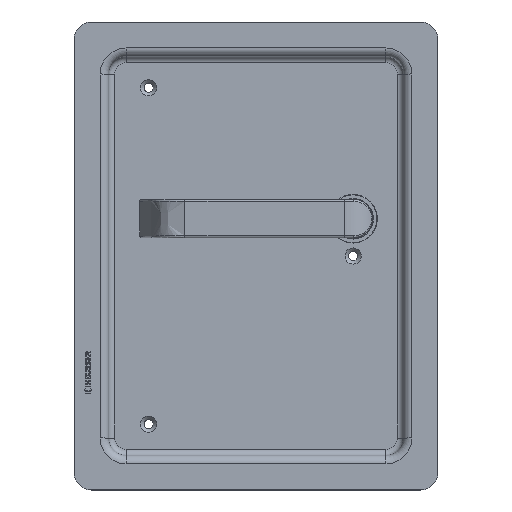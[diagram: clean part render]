
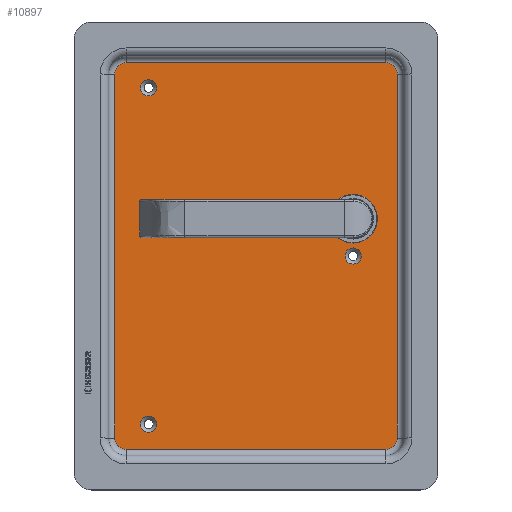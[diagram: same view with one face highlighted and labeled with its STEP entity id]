
A CAD part, top view. The second image highlights one B-rep face of the part: STEP entity #10897.
In plain terms, the highlighted planar face has unit normal (0, 0, 1).
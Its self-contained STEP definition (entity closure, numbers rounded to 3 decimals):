
#689=LINE('',#14630,#1642);
#690=LINE('',#14638,#1643);
#692=LINE('',#14650,#1645);
#695=LINE('',#14662,#1648);
#1642=VECTOR('',#12349,10.);
#1643=VECTOR('',#12360,10.);
#1645=VECTOR('',#12374,10.);
#1648=VECTOR('',#12389,10.);
#2666=FACE_BOUND('',#3459,.T.);
#2667=FACE_BOUND('',#3460,.T.);
#2668=FACE_BOUND('',#3461,.T.);
#2669=FACE_BOUND('',#3462,.T.);
#2824=FACE_OUTER_BOUND('',#3458,.T.);
#3458=EDGE_LOOP('',(#7174,#7175,#7176,#7177,#7178,#7179,#7180,#7181));
#3459=EDGE_LOOP('',(#7182));
#3460=EDGE_LOOP('',(#7183));
#3461=EDGE_LOOP('',(#7184));
#3462=EDGE_LOOP('',(#7185));
#4105=CIRCLE('',#11524,6.5);
#4108=CIRCLE('',#11529,6.5);
#4111=CIRCLE('',#11534,6.5);
#4115=CIRCLE('',#11540,6.5);
#4160=CIRCLE('',#11629,4.65);
#4161=CIRCLE('',#11631,4.65);
#4162=CIRCLE('',#11633,14.);
#4163=CIRCLE('',#11634,4.65);
#4307=VERTEX_POINT('',#14623);
#4308=VERTEX_POINT('',#14625);
#4309=VERTEX_POINT('',#14629);
#4310=VERTEX_POINT('',#14633);
#4311=VERTEX_POINT('',#14637);
#4313=VERTEX_POINT('',#14643);
#4315=VERTEX_POINT('',#14649);
#4317=VERTEX_POINT('',#14655);
#4369=VERTEX_POINT('',#14841);
#4370=VERTEX_POINT('',#14844);
#4371=VERTEX_POINT('',#14847);
#4372=VERTEX_POINT('',#14849);
#5360=EDGE_CURVE('',#4308,#4307,#4105,.T.);
#5362=EDGE_CURVE('',#4309,#4308,#689,.T.);
#5364=EDGE_CURVE('',#4310,#4309,#4108,.T.);
#5366=EDGE_CURVE('',#4311,#4310,#690,.T.);
#5369=EDGE_CURVE('',#4313,#4311,#4111,.T.);
#5372=EDGE_CURVE('',#4315,#4313,#692,.T.);
#5375=EDGE_CURVE('',#4317,#4315,#4115,.T.);
#5379=EDGE_CURVE('',#4307,#4317,#695,.T.);
#5463=EDGE_CURVE('',#4369,#4369,#4160,.T.);
#5464=EDGE_CURVE('',#4370,#4370,#4161,.T.);
#5465=EDGE_CURVE('',#4371,#4371,#4162,.T.);
#5466=EDGE_CURVE('',#4372,#4372,#4163,.T.);
#7174=ORIENTED_EDGE('',*,*,#5379,.T.);
#7175=ORIENTED_EDGE('',*,*,#5375,.T.);
#7176=ORIENTED_EDGE('',*,*,#5372,.T.);
#7177=ORIENTED_EDGE('',*,*,#5369,.T.);
#7178=ORIENTED_EDGE('',*,*,#5366,.T.);
#7179=ORIENTED_EDGE('',*,*,#5364,.T.);
#7180=ORIENTED_EDGE('',*,*,#5362,.T.);
#7181=ORIENTED_EDGE('',*,*,#5360,.T.);
#7182=ORIENTED_EDGE('',*,*,#5465,.T.);
#7183=ORIENTED_EDGE('',*,*,#5464,.F.);
#7184=ORIENTED_EDGE('',*,*,#5463,.F.);
#7185=ORIENTED_EDGE('',*,*,#5466,.F.);
#9934=PLANE('',#11632);
#10897=ADVANCED_FACE('',(#2824,#2666,#2667,#2668,#2669),#9934,.F.);
#11524=AXIS2_PLACEMENT_3D('',#14626,#12343,#12344);
#11529=AXIS2_PLACEMENT_3D('',#14634,#12354,#12355);
#11534=AXIS2_PLACEMENT_3D('',#14644,#12366,#12367);
#11540=AXIS2_PLACEMENT_3D('',#14656,#12380,#12381);
#11629=AXIS2_PLACEMENT_3D('',#14842,#12599,#12600);
#11631=AXIS2_PLACEMENT_3D('',#14845,#12603,#12604);
#11632=AXIS2_PLACEMENT_3D('',#14846,#12605,#12606);
#11633=AXIS2_PLACEMENT_3D('',#14848,#12607,#12608);
#11634=AXIS2_PLACEMENT_3D('',#14850,#12609,#12610);
#12343=DIRECTION('center_axis',(0.,0.,
1.));
#12344=DIRECTION('ref_axis',(-0.707,-0.707,0.));
#12349=DIRECTION('',(0.,-1.,0.));
#12354=DIRECTION('center_axis',(0.,0.,
1.));
#12355=DIRECTION('ref_axis',(-0.707,0.707,0.));
#12360=DIRECTION('',(-1.,0.,0.));
#12366=DIRECTION('center_axis',(0.,0.,
1.));
#12367=DIRECTION('ref_axis',(0.707,0.707,0.));
#12374=DIRECTION('',(0.,1.,0.));
#12380=DIRECTION('center_axis',(0.,0.,
1.));
#12381=DIRECTION('ref_axis',(0.707,-0.707,0.));
#12389=DIRECTION('',(1.,0.,0.));
#12599=DIRECTION('center_axis',(0.,0.,
1.));
#12600=DIRECTION('ref_axis',(-1.,0.,0.));
#12603=DIRECTION('center_axis',(0.,0.,
1.));
#12604=DIRECTION('ref_axis',(-1.,0.,0.));
#12605=DIRECTION('center_axis',(0.,0.,
-1.));
#12606=DIRECTION('ref_axis',(-1.,0.,0.));
#12607=DIRECTION('center_axis',(0.,0.,
-1.));
#12608=DIRECTION('ref_axis',(0.,1.,0.));
#12609=DIRECTION('center_axis',(0.,0.,
1.));
#12610=DIRECTION('ref_axis',(-1.,0.,0.));
#14623=CARTESIAN_POINT('',(-77.269,-100.155,-5.503));
#14625=CARTESIAN_POINT('',(-83.769,-93.655,-5.503));
#14626=CARTESIAN_POINT('Origin',(-77.269,-93.655,-5.503));
#14629=CARTESIAN_POINT('',(-83.769,116.345,-5.503));
#14630=CARTESIAN_POINT('',(-83.769,63.845,-5.503));
#14633=CARTESIAN_POINT('',(-77.269,122.845,-5.503));
#14634=CARTESIAN_POINT('Origin',(-77.269,116.345,-5.503));
#14637=CARTESIAN_POINT('',(72.731,122.845,-5.503));
#14638=CARTESIAN_POINT('',(35.231,122.845,-5.503));
#14643=CARTESIAN_POINT('',(79.231,116.345,-5.503));
#14644=CARTESIAN_POINT('Origin',(72.731,116.345,-5.503));
#14649=CARTESIAN_POINT('',(79.231,-93.655,-5.503));
#14650=CARTESIAN_POINT('',(79.231,-41.155,-5.503));
#14655=CARTESIAN_POINT('',(72.731,-100.155,-5.503));
#14656=CARTESIAN_POINT('Origin',(72.731,-93.655,-5.503));
#14662=CARTESIAN_POINT('',(-39.769,-100.155,-5.503));
#14841=CARTESIAN_POINT('',(58.381,11.345,-5.503));
#14842=CARTESIAN_POINT('Origin',(53.731,11.345,-5.503));
#14844=CARTESIAN_POINT('',(-59.619,-85.655,-5.503));
#14845=CARTESIAN_POINT('Origin',(-64.269,-85.655,-5.503));
#14846=CARTESIAN_POINT('Origin',(-2.269,11.345,-5.503));
#14847=CARTESIAN_POINT('',(53.731,18.845,-5.503));
#14848=CARTESIAN_POINT('Origin',(53.731,32.845,-5.503));
#14849=CARTESIAN_POINT('',(-59.619,108.345,-5.503));
#14850=CARTESIAN_POINT('Origin',(-64.269,108.345,-5.503));
